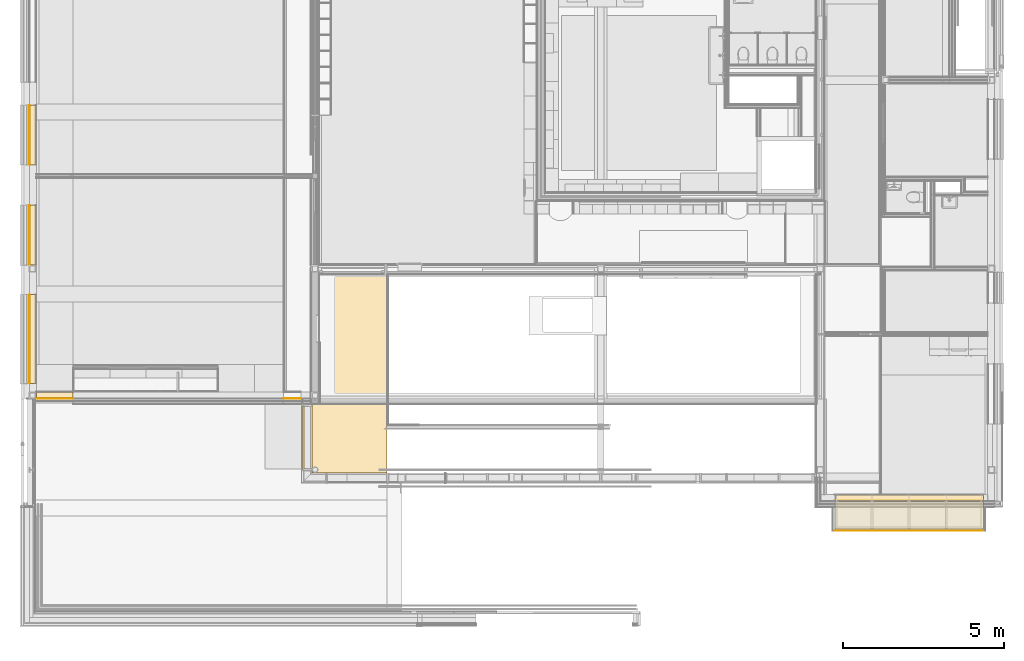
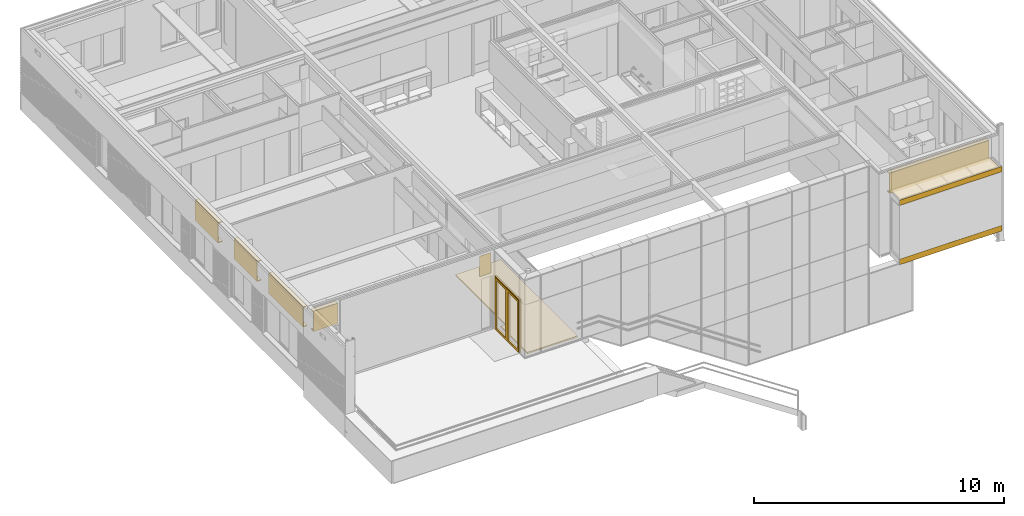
# One storey, part 102 of 137: 20 coverings, 1 opening, 11 elements without a shape of their own.
"""IFC2X3 building model written with IfcOpenShell, lengths in millimetres."""

from ifc_helpers import new_model, entity, si_unit, converted_unit, derived_unit, money_unit, direction, frame, origin_with_axes, place, context, subcontext, project, spatial, faceted_brep, material, type_object, element, aggregate, save


model = new_model("IFC2X3")

# Units and contexts
model_context = context("Model", 3, precision=0.01, world=origin_with_axes(), true_north=direction((0.0, 1.0)))
body_context = subcontext(model_context, "Body", "Model", "MODEL_VIEW")
ifc_project = project(units=[si_unit("LENGTHUNIT", "METRE", prefix="MILLI"), si_unit("AREAUNIT", "SQUARE_METRE"), si_unit("VOLUMEUNIT", "CUBIC_METRE"), converted_unit("PLANEANGLEUNIT", "DEGREE", entity("IfcPlaneAngleMeasure", 0.0174532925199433), si_unit("PLANEANGLEUNIT", "RADIAN"), dimensions=[0, 0, 0, 0, 0, 0, 0]), money_unit("EUR"), converted_unit("TIMEUNIT", "Year", entity("IfcTimeMeasure", 31556926.0), si_unit("TIMEUNIT", "SECOND"), dimensions=[0, 0, 1, 0, 0, 0, 0]), si_unit("MASSUNIT", "GRAM", prefix="KILO"), si_unit("THERMODYNAMICTEMPERATUREUNIT", "DEGREE_CELSIUS"), si_unit("LUMINOUSINTENSITYUNIT", "LUMEN"), si_unit("ENERGYUNIT", "JOULE", prefix="MEGA"), derived_unit("THERMALCONDUCTANCEUNIT", [(si_unit("POWERUNIT", "WATT"), 1), (si_unit("LENGTHUNIT", "METRE"), -1), (si_unit("THERMODYNAMICTEMPERATUREUNIT", "KELVIN"), -1)]), derived_unit("SPECIFICHEATCAPACITYUNIT", [(si_unit("ENERGYUNIT", "JOULE"), 1), (si_unit("MASSUNIT", "GRAM", prefix="KILO"), -1), (si_unit("THERMODYNAMICTEMPERATUREUNIT", "KELVIN"), -1)]), derived_unit("MASSDENSITYUNIT", [(si_unit("MASSUNIT", "GRAM", prefix="KILO"), 1), (si_unit("VOLUMEUNIT", "CUBIC_METRE"), -1)])], contexts=[model_context])

# Site, building, storey
site_placement = place(None, origin_with_axes())
site = spatial("IfcSite", under=ifc_project, at=site_placement, Name="Site", CompositionType="ELEMENT")
building_placement = place(site_placement, origin_with_axes())
building = spatial("IfcBuilding", under=site, at=building_placement, Name="Naam gebouw", CompositionType="ELEMENT")
storey_placement = place(building_placement, frame((0.0, 0.0, 3960.0), z_axis=(0.0, 0.0, 1.0), x_axis=(1.0, 0.0, 0.0)))
storey = spatial("IfcBuildingStorey", under=building, at=storey_placement, Name="1e verdieping", CompositionType="ELEMENT", Elevation=3960.0)

# Wall, opening, covering
wall_type = type_object("IfcWallType", Name="21 Zetwerk op Isolatie 63", PredefinedType="NOTDEFINED")
wall_placement = place(storey_placement, frame((24949.99904072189, 2749.999999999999, -283.0000000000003), z_axis=(0.0, 0.0, 1.0), x_axis=(1.0, 0.0, 0.0)))
wall = element("IfcWall", 1, at=wall_placement, inside=storey, type_object=wall_type, Name="21_Wand-x")
opening_placement = place(wall_placement, frame((2300.000941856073, 0.0, 273.0000000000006), z_axis=(0.0, 0.0, 1.0), x_axis=(1.0, 0.0, 0.0)))
element("IfcOpeningElement", 2, at=opening_placement, cuts=wall, Name="_Merk BK2", context=body_context, shape_type="Brep", body=[
    faceted_brep([(2299.000876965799, 0.9999999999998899, 0.0), (-2363.000941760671, 0.9999999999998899, 0.0), (-2363.000941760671, 0.9999999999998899, 2620.0), (2299.000876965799, 0.9999999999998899, 2620.0), (2363.000941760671, -64.00000000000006, 0.0), (-2363.000941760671, -64.00000000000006, 0.0), (2363.000941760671, -63.00000000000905, 0.0), (-2363.000941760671, -64.00000000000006, 2620.0), (2363.000941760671, -64.00000000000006, 2620.0), (2363.000941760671, -63.00000000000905, 2620.0)], [[[0, 1, 2, 3]], [[4, 5, 1, 0, 6]], [[5, 7, 2, 1]], [[7, 8, 9, 3, 2]], [[0, 3, 9, 6]], [[5, 4, 8, 7]], [[8, 4, 6, 9]]]),
])
ifc_material_1 = material(Name="Metaal - Aluminium")
covering_1_placement = place(wall_placement, origin_with_axes())
covering_1 = element("IfcCovering", 3, at=covering_1_placement, material=ifc_material_1, Name="Metaal - Aluminium", PredefinedType="NOTDEFINED", context=body_context, shape_type="Brep", body=[
    faceted_brep([(4663.001880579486, -59.99999999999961, 273.0000000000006), (-59.99999990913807, -60.00000000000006, 273.0000000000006), (-59.9999999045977, -63.00000000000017, 273.0000000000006), (4663.001883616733, -62.99999999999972, 273.0000000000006), (4663.001880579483, -59.99999999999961, 0.0), (-59.99999990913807, -60.00000000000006, 0.0), (-59.9999999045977, -63.00000000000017, 0.0), (4663.00188361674, -62.99999999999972, 0.0)], [[[0, 1, 2, 3]], [[1, 0, 4, 5]], [[2, 1, 5, 6]], [[3, 2, 6, 7]], [[0, 3, 7, 4]], [[4, 7, 6, 5]]]),
    faceted_brep([(-59.9999999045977, -62.99999999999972, 2893.000000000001), (4663.001883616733, -62.99999999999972, 2893.000000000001), (4663.00188361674, -62.99999999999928, 3153.000000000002), (-59.9999999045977, -62.99999999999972, 3153.000000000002), (-59.99999990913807, -59.99999999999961, 2893.000000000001), (4663.001880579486, -59.99999999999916, 2893.000000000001), (4663.001880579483, -59.99999999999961, 3153.000000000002), (-59.99999990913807, -59.99999999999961, 3153.000000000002)], [[[0, 1, 2, 3]], [[1, 0, 4, 5]], [[1, 5, 6, 2]], [[2, 6, 7, 3]], [[4, 0, 3, 7]], [[4, 7, 6, 5]]]),
])
aggregate(wall, [covering_1])

# Slab, covering
slab_type_1 = type_object("IfcSlabType", Name="27 HSB dak 192", PredefinedType="NOTDEFINED")
slab_1_placement = place(storey_placement, frame((24949.99903911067, 3599.999997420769, 2600.0), z_axis=(0.0, 0.0, 1.0), x_axis=(1.0, 0.0, 0.0)))
slab_1 = element("IfcSlab", 4, at=slab_1_placement, inside=storey, type_object=slab_type_1, Name="_Vloer-x", PredefinedType="NOTDEFINED")
ifc_material_2 = material(Name="Hout - Multiplex")
covering_2_placement = place(slab_1_placement, origin_with_axes())
covering_2 = element("IfcCovering", 5, at=covering_2_placement, material=ifc_material_2, Name="Hout - Multiplex", PredefinedType="NOTDEFINED", context=body_context, shape_type="Brep", body=[
    faceted_brep([(0.0, 0.0, 174.0000000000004), (0.0, -849.9999974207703, 174.0000000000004), (0.0, -849.9999974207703, 192.0000000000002), (0.0, 0.0, 192.0000000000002), (4600.000744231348, 0.0, 174.0000000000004), (4600.000744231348, -849.9999974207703, 174.0000000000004), (4600.000744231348, -849.9999974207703, 192.0000000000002), (4600.000744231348, 0.0, 192.0000000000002)], [[[0, 1, 2, 3]], [[1, 0, 4, 5]], [[1, 5, 6, 2]], [[7, 3, 2, 6]], [[4, 0, 3, 7]], [[5, 4, 7, 6]]]),
])
aggregate(slab_1, [covering_2])

slab_type_2 = type_object("IfcSlabType", Name="43 Zwevende dekvloer 100", PredefinedType="NOTDEFINED")
slab_2_placement = place(storey_placement, frame((8750.013310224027, 6604.999839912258, 0.0), z_axis=(0.0, 0.0, 1.0), x_axis=(1.0, 0.0, 0.0)))
slab_2 = element("IfcSlab", 6, at=slab_2_placement, inside=storey, type_object=slab_type_2, Name="_Vloer-x", PredefinedType="NOTDEFINED")
ifc_material_3 = material(Name="Cement - dekvloer")
covering_3_placement = place(slab_2_placement, origin_with_axes())
covering_3 = element("IfcCovering", 7, at=covering_3_placement, material=ifc_material_3, Name="Cement - dekvloer", PredefinedType="FLOORING", context=body_context, shape_type="Brep", body=[
    faceted_brep([(3.136689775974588, 2.13690221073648e-06, -69.99999999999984), (3.136689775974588, 2.13690221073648e-06, 0.0), (234.9876335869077, 0.00016008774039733, 0.0), (234.9876335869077, 0.00016008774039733, -69.99999999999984), (3.136689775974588, -2124.999839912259, 0.0), (3.136689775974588, -2124.999839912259, -69.99999999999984), (2325.032282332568, -2124.999839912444, 0.0), (2325.032282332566, 4015.000270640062, 0.0), (234.9890812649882, 4015.000270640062, 0.0), (234.9890812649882, 4015.000270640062, -69.99999999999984), (2325.032282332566, 4015.000270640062, -69.99999999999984), (2325.032282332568, -2124.999839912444, -69.99999999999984)], [[[0, 1, 2, 3]], [[4, 1, 0, 5]], [[1, 4, 6, 7, 8, 2]], [[9, 3, 2, 8]], [[5, 0, 3, 9, 10, 11]], [[4, 5, 11, 6]], [[11, 10, 7, 6]], [[10, 9, 8, 7]]]),
])
aggregate(slab_2, [covering_3])

# Beam, coverings
beam_type = type_object("IfcBeamType", Name="31 HSB boven kozijnen 214 x 1000", PredefinedType="BEAM")
beam_1_placement = place(storey_placement, frame((24949.99903911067, 3813.999999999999, 2600.000000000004), z_axis=(0.0, 0.0, 1.0), x_axis=(1.540638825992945e-08, -0.9999999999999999, 0.0)))
beam_1 = element("IfcBeam", 8, at=beam_1_placement, inside=storey, type_object=beam_type, Name="28_Balk-x", ObjectType="BEAM")
ifc_material_4 = material(Name="Hout - Vloer")
covering_4_placement = place(beam_1_placement, origin_with_axes())
covering_4 = element("IfcCovering", 9, at=covering_4_placement, material=ifc_material_4, Name="Hout - Vloer", PredefinedType="NOTDEFINED", context=body_context, shape_type="Brep", body=[
    faceted_brep([(11.99999638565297, 4600.000744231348, 49.99999999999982), (11.99999638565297, 4600.000744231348, 12.00000596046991), (11.99999638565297, 0.0, 12.00000596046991), (11.99999638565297, 0.0, 49.99999999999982), (196.0000083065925, 4600.000744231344, 49.99999999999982), (196.0000083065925, 4600.000744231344, 12.00000596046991), (196.0000083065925, 0.0, 12.00000596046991), (196.0000083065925, 0.0, 49.99999999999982)], [[[0, 1, 2, 3]], [[0, 4, 5, 1]], [[1, 5, 6, 2]], [[3, 2, 6, 7]], [[4, 0, 3, 7]], [[5, 4, 7, 6]]]),
])
covering_5_placement = place(beam_1_placement, origin_with_axes())
covering_5 = element("IfcCovering", 10, at=covering_5_placement, material=ifc_material_2, Name="Hout - Multiplex", PredefinedType="NOTDEFINED", context=body_context, shape_type="Brep", body=[
    faceted_brep([(196.0000019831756, 4600.000744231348, 999.9999999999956), (196.0000019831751, 4600.000744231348, 11.99999999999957), (196.0000019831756, 0.0, 11.99999999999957), (196.000001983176, 0.0, 999.9999999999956), (214.0000025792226, 4600.000744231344, 999.9999999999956), (214.0000025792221, 4600.000744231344, 11.99999999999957), (214.0000025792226, 0.0, 11.99999999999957), (214.0000025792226, 0.0, 999.9999999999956)], [[[0, 1, 2, 3]], [[0, 4, 5, 1]], [[1, 5, 6, 2]], [[3, 2, 6, 7]], [[4, 0, 3, 7]], [[5, 4, 7, 6]]]),
])
covering_6_placement = place(beam_1_placement, origin_with_axes())
covering_6 = element("IfcCovering", 11, at=covering_6_placement, material=ifc_material_4, Name="Hout - Vloer", PredefinedType="NOTDEFINED", context=body_context, shape_type="Brep", body=[
    faceted_brep([(11.99999006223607, 4600.000744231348, 999.9999999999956), (11.99999006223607, 4600.000744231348, 962.0000059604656), (11.99999006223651, 0.0, 962.0000059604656), (11.99999006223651, 0.0, 999.9999999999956), (196.0000019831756, 4600.000744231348, 999.9999999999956), (196.0000019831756, 4600.000744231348, 961.9999910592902), (196.0000019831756, 0.0, 961.9999910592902), (196.000001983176, 0.0, 999.9999999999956)], [[[0, 1, 2, 3]], [[0, 4, 5, 1]], [[1, 5, 6, 2]], [[3, 2, 6, 7]], [[4, 0, 3, 7]], [[5, 4, 7, 6]]]),
])
aggregate(beam_1, [covering_4, covering_5, covering_6])

# Beam, covering
beam_2_placement = place(storey_placement, frame((8410.0, 6993.999661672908, 2600.000000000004), z_axis=(0.0, 0.0, 1.0), x_axis=(4.022914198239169e-08, 0.9999999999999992, 0.0)))
beam_2 = element("IfcBeam", 12, at=beam_2_placement, inside=storey, type_object=beam_type, Name="28_Balk-x", ObjectType="BEAM")
covering_7_placement = place(beam_2_placement, origin_with_axes())
covering_7 = element("IfcCovering", 13, at=covering_7_placement, material=ifc_material_2, Name="Hout - Multiplex", PredefinedType="NOTDEFINED", context=body_context, shape_type="Brep", body=[
    faceted_brep([(-214.0000025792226, 532.4999958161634, 999.9999999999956), (-214.0000025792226, 532.4999958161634, 11.99999999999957), (-214.0000025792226, 0.0, 11.99999999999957), (-214.0000025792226, 0.0, 999.9999999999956), (-196.000001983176, 532.4999958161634, 999.9999999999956), (-196.0000019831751, 532.4999958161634, 11.99999999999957), (-196.0000019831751, 0.0, 11.99999999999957), (-196.0000019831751, 0.0, 999.9999999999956)], [[[0, 1, 2, 3]], [[0, 4, 5, 1]], [[1, 5, 6, 2]], [[3, 2, 6, 7]], [[4, 0, 3, 7]], [[5, 4, 7, 6]]]),
])
aggregate(beam_2, [covering_7])

beam_3_placement = place(storey_placement, frame((214.0000000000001, 7254.999999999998, 2600.000000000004), z_axis=(0.0, 0.0, 1.0), x_axis=(1.0, 0.0, 0.0)))
beam_3 = element("IfcBeam", 14, at=beam_3_placement, inside=storey, type_object=beam_type, Name="28_Balk-x", ObjectType="BEAM")
covering_8_placement = place(beam_3_placement, origin_with_axes())
covering_8 = element("IfcCovering", 15, at=covering_8_placement, material=ifc_material_4, Name="Hout - Vloer", PredefinedType="NOTDEFINED", context=body_context, shape_type="Brep", body=[
    faceted_brep([(-196.0000019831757, 2750.000000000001, 999.9999999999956), (-196.0000019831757, 2750.000000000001, 961.9999910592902), (-196.0000019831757, 0.0, 961.9999910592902), (-196.0000019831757, 0.0, 999.9999999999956), (-11.99999006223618, 2750.000000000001, 999.9999999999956), (-11.99999006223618, 2750.000000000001, 962.0000059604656), (-11.99999006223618, 0.0, 962.0000059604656), (-11.99999006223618, 0.0, 999.9999999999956)], [[[0, 1, 2, 3]], [[0, 4, 5, 1]], [[1, 5, 6, 2]], [[3, 2, 6, 7]], [[4, 0, 3, 7]], [[5, 4, 7, 6]]]),
])

beam_4_placement = place(storey_placement, frame((214.0000000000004, 10925.00011055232, 2600.000000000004), z_axis=(0.0, 0.0, 1.0), x_axis=(1.0, 0.0, 0.0)))
beam_4 = element("IfcBeam", 16, at=beam_4_placement, inside=storey, type_object=beam_type, Name="28_Balk-x", ObjectType="BEAM")
covering_9_placement = place(beam_4_placement, origin_with_axes())
covering_9 = element("IfcCovering", 17, at=covering_9_placement, material=ifc_material_4, Name="Hout - Vloer", PredefinedType="NOTDEFINED", context=body_context, shape_type="Brep", body=[
    faceted_brep([(-196.0000019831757, 1850.0, 999.9999999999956), (-196.0000019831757, 1850.0, 961.9999910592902), (-196.0000019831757, 0.0, 961.9999910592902), (-196.0000019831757, 0.0, 999.9999999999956), (-11.99999006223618, 1850.0, 999.9999999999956), (-11.99999006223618, 1850.0, 962.0000059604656), (-11.99999006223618, 0.0, 962.0000059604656), (-11.99999006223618, 0.0, 999.9999999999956)], [[[0, 1, 2, 3]], [[0, 4, 5, 1]], [[1, 5, 6, 2]], [[3, 2, 6, 7]], [[4, 0, 3, 7]], [[5, 4, 7, 6]]]),
])

# Covering
covering_10_placement = place(beam_3_placement, origin_with_axes())
covering_10 = element("IfcCovering", 18, at=covering_10_placement, material=ifc_material_2, Name="Hout - Multiplex", PredefinedType="NOTDEFINED", context=body_context, shape_type="Brep", body=[
    faceted_brep([(-214.0000025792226, 2750.000000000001, 999.9999999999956), (-214.0000025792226, 2750.000000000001, 11.99999999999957), (-214.0000025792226, 0.0, 11.99999999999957), (-214.0000025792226, 0.0, 999.9999999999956), (-196.0000019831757, 2750.000000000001, 999.9999999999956), (-196.0000019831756, 2750.000000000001, 11.99999999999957), (-196.0000019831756, 0.0, 11.99999999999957), (-196.0000019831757, 0.0, 999.9999999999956)], [[[0, 1, 2, 3]], [[0, 4, 5, 1]], [[1, 5, 6, 2]], [[3, 2, 6, 7]], [[4, 0, 3, 7]], [[5, 4, 7, 6]]]),
])

covering_11_placement = place(beam_4_placement, origin_with_axes())
covering_11 = element("IfcCovering", 19, at=covering_11_placement, material=ifc_material_4, Name="Hout - Vloer", PredefinedType="NOTDEFINED", context=body_context, shape_type="Brep", body=[
    faceted_brep([(-196.0000083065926, 1850.0, 49.99999999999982), (-196.0000083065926, 1850.0, 12.00000596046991), (-196.0000083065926, 0.0, 12.00000596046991), (-196.0000083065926, 0.0, 49.99999999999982), (-11.99999638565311, 1850.0, 49.99999999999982), (-11.99999638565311, 1850.0, 12.00000596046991), (-11.99999638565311, 0.0, 12.00000596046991), (-11.99999638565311, 0.0, 49.99999999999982)], [[[0, 1, 2, 3]], [[0, 4, 5, 1]], [[1, 5, 6, 2]], [[3, 2, 6, 7]], [[4, 0, 3, 7]], [[5, 4, 7, 6]]]),
])

covering_12_placement = place(beam_4_placement, origin_with_axes())
covering_12 = element("IfcCovering", 20, at=covering_12_placement, material=ifc_material_2, Name="Hout - Multiplex", PredefinedType="NOTDEFINED", context=body_context, shape_type="Brep", body=[
    faceted_brep([(-214.0000025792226, 1850.0, 999.9999999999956), (-214.0000025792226, 1850.0, 11.99999999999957), (-214.0000025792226, 0.0, 11.99999999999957), (-214.0000025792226, 0.0, 999.9999999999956), (-196.0000019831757, 1850.0, 999.9999999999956), (-196.0000019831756, 1850.0, 11.99999999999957), (-196.0000019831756, 0.0, 11.99999999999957), (-196.0000019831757, 0.0, 999.9999999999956)], [[[0, 1, 2, 3]], [[0, 4, 5, 1]], [[1, 5, 6, 2]], [[3, 2, 6, 7]], [[4, 0, 3, 7]], [[5, 4, 7, 6]]]),
])

aggregate(beam_4, [covering_9, covering_11, covering_12])

# Beam, coverings
beam_5_placement = place(storey_placement, frame((214.0000000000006, 14024.9998112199, 2600.000000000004), z_axis=(0.0, 0.0, 1.0), x_axis=(1.0, 0.0, 0.0)))
beam_5 = element("IfcBeam", 21, at=beam_5_placement, inside=storey, type_object=beam_type, Name="28_Balk-x", ObjectType="BEAM")
covering_13_placement = place(beam_5_placement, origin_with_axes())
covering_13 = element("IfcCovering", 22, at=covering_13_placement, material=ifc_material_4, Name="Hout - Vloer", PredefinedType="NOTDEFINED", context=body_context, shape_type="Brep", body=[
    faceted_brep([(-196.0000019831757, 1850.000000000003, 999.9999999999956), (-196.0000019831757, 1850.000000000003, 961.9999910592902), (-196.0000019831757, 0.0, 961.9999910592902), (-196.0000019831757, 0.0, 999.9999999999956), (-11.99999006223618, 1850.000000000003, 999.9999999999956), (-11.99999006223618, 1850.000000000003, 962.0000059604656), (-11.99999006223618, 0.0, 962.0000059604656), (-11.99999006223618, 0.0, 999.9999999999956)], [[[0, 1, 2, 3]], [[0, 4, 5, 1]], [[1, 5, 6, 2]], [[3, 2, 6, 7]], [[4, 0, 3, 7]], [[5, 4, 7, 6]]]),
])
covering_14_placement = place(beam_5_placement, origin_with_axes())
covering_14 = element("IfcCovering", 23, at=covering_14_placement, material=ifc_material_4, Name="Hout - Vloer", PredefinedType="NOTDEFINED", context=body_context, shape_type="Brep", body=[
    faceted_brep([(-196.0000083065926, 1850.000000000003, 49.99999999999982), (-196.0000083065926, 1850.000000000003, 12.00000596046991), (-196.0000083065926, 0.0, 12.00000596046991), (-196.0000083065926, 0.0, 49.99999999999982), (-11.99999638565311, 1850.000000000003, 49.99999999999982), (-11.99999638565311, 1850.000000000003, 12.00000596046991), (-11.99999638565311, 0.0, 12.00000596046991), (-11.99999638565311, 0.0, 49.99999999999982)], [[[0, 1, 2, 3]], [[0, 4, 5, 1]], [[1, 5, 6, 2]], [[3, 2, 6, 7]], [[4, 0, 3, 7]], [[5, 4, 7, 6]]]),
])

# Covering
covering_15_placement = place(beam_3_placement, origin_with_axes())
covering_15 = element("IfcCovering", 24, at=covering_15_placement, material=ifc_material_4, Name="Hout - Vloer", PredefinedType="NOTDEFINED", context=body_context, shape_type="Brep", body=[
    faceted_brep([(-196.0000083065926, 2750.000000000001, 49.99999999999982), (-196.0000083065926, 2750.000000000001, 12.00000596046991), (-196.0000083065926, 0.0, 12.00000596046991), (-196.0000083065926, 0.0, 49.99999999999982), (-11.99999638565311, 2750.000000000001, 49.99999999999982), (-11.99999638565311, 2750.000000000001, 12.00000596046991), (-11.99999638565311, 0.0, 12.00000596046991), (-11.99999638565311, 0.0, 49.99999999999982)], [[[0, 1, 2, 3]], [[0, 4, 5, 1]], [[1, 5, 6, 2]], [[3, 2, 6, 7]], [[4, 0, 3, 7]], [[5, 4, 7, 6]]]),
])

aggregate(beam_3, [covering_8, covering_10, covering_15])

covering_16_placement = place(beam_5_placement, origin_with_axes())
covering_16 = element("IfcCovering", 25, at=covering_16_placement, material=ifc_material_2, Name="Hout - Multiplex", PredefinedType="NOTDEFINED", context=body_context, shape_type="Brep", body=[
    faceted_brep([(-214.0000025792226, 1850.000000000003, 999.9999999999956), (-214.0000025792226, 1850.000000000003, 11.99999999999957), (-214.0000025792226, 0.0, 11.99999999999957), (-214.0000025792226, 0.0, 999.9999999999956), (-196.0000019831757, 1850.000000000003, 999.9999999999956), (-196.0000019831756, 1850.000000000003, 11.99999999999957), (-196.0000019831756, 0.0, 11.99999999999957), (-196.0000019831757, 0.0, 999.9999999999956)], [[[0, 1, 2, 3]], [[0, 4, 5, 1]], [[1, 5, 6, 2]], [[3, 2, 6, 7]], [[4, 0, 3, 7]], [[5, 4, 7, 6]]]),
])

aggregate(beam_5, [covering_13, covering_14, covering_16])

# Curtain wall, plate, covering
curtain_wall_type = type_object("IfcCurtainWallType", Name="Curtain Wall Type", PredefinedType="NOTDEFINED")
curtain_wall_placement = place(storey_placement, frame((8473.014787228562, 4364.43626274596, -3949.999921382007), z_axis=(0.0, 0.0, 1.0), x_axis=(1.0, 0.0, 0.0)))
curtain_wall = element("IfcCurtainWall", 26, at=curtain_wall_placement, inside=storey, type_object=curtain_wall_type, Name="21_Vliesgevel-x")
plate_type = type_object("IfcPlateType", Name="1969 x 1500 x 42", PredefinedType="CURTAIN_PANEL")
plate_placement = place(curtain_wall_placement, frame((0.0, 1222.405868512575, 5183.333269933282), z_axis=(0.0, 0.0, 1.0), x_axis=(0.0, 1.0, 0.0)))
plate = element("IfcPlate", 27, at=plate_placement, type_object=plate_type, Name="_Paneel-x", ObjectType="CURTAIN_PANEL")
aggregate(curtain_wall, [plate])
ifc_material_5 = material(Name="Metaal - Staal AFW")
covering_17_placement = place(plate_placement, origin_with_axes())
covering_17 = element("IfcCovering", 28, at=covering_17_placement, material=ifc_material_5, Name="Metaal - Staal AFW", PredefinedType="NOTDEFINED", context=body_context, shape_type="Brep", body=[
    faceted_brep([(-982.1575122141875, -70.99999999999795, -1223.333168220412), (-982.1575122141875, -70.99999999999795, 1341.666684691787), (-982.1575122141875, -48.99999999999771, 1341.666684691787), (-982.1575122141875, -48.99999999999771, -1223.333168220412), (-914.1575122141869, -70.99999999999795, -1223.333168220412), (-914.1575122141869, -70.99999999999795, 1273.666684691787), (-914.1575122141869, -48.99999999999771, 1273.666684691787), (-914.1575122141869, -48.99999999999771, -1223.333168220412)], [[[0, 1, 2, 3]], [[0, 4, 5, 1]], [[1, 5, 6, 2]], [[3, 2, 6, 7]], [[4, 0, 3, 7]], [[5, 4, 7, 6]]]),
    faceted_brep([(957.1575089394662, -70.99999999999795, 1341.666684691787), (889.1575089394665, -70.99999999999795, 1273.666684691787), (889.1575089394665, -48.99999999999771, 1273.666684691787), (957.1575089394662, -48.99999999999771, 1341.666684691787), (-982.1575122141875, -70.99999999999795, 1341.666684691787), (-914.1575122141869, -70.99999999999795, 1273.666684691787), (-914.1575122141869, -48.99999999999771, 1273.666684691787), (-982.1575122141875, -48.99999999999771, 1341.666684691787)], [[[0, 1, 2, 3]], [[0, 4, 5, 1]], [[1, 5, 6, 2]], [[3, 2, 6, 7]], [[4, 0, 3, 7]], [[5, 4, 7, 6]]]),
    faceted_brep([(957.1575089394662, -70.99999999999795, -1223.333168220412), (889.1575089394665, -70.99999999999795, -1223.333168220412), (889.1575089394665, -48.99999999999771, -1223.333168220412), (957.1575089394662, -48.99999999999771, -1223.333168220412), (957.1575089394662, -70.99999999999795, 1341.666684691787), (889.1575089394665, -70.99999999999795, 1273.666684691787), (889.1575089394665, -48.99999999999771, 1273.666684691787), (957.1575089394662, -48.99999999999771, 1341.666684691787)], [[[0, 1, 2, 3]], [[0, 4, 5, 1]], [[1, 5, 6, 2]], [[3, 2, 6, 7]], [[4, 0, 3, 7]], [[5, 4, 7, 6]]]),
    faceted_brep([(-982.1575122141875, -48.99999999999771, -1223.333168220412), (-982.1575122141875, -48.99999999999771, 1341.666684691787), (-982.1575122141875, 1.000000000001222, 1341.666684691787), (-982.1575122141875, 1.000000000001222, -1223.333168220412), (-942.1575122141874, -48.99999999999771, -1223.333168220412), (-942.1575122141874, -48.99999999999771, 1301.666684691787), (-942.1575122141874, 1.000000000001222, 1301.666684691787), (-942.1575122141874, 1.000000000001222, -1223.333168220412)], [[[0, 1, 2, 3]], [[0, 4, 5, 1]], [[1, 5, 6, 2]], [[3, 2, 6, 7]], [[4, 0, 3, 7]], [[5, 4, 7, 6]]]),
    faceted_brep([(957.1575089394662, -48.99999999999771, 1341.666684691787), (917.1575089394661, -48.99999999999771, 1301.666684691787), (917.1575089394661, 1.000000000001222, 1301.666684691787), (957.1575089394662, 1.000000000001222, 1341.666684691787), (-982.1575122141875, -48.99999999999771, 1341.666684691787), (-942.1575122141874, -48.99999999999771, 1301.666684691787), (-942.1575122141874, 1.000000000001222, 1301.666684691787), (-982.1575122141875, 1.000000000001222, 1341.666684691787)], [[[0, 1, 2, 3]], [[0, 4, 5, 1]], [[1, 5, 6, 2]], [[3, 2, 6, 7]], [[4, 0, 3, 7]], [[5, 4, 7, 6]]]),
    faceted_brep([(957.1575089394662, -48.99999999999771, -1223.333168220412), (917.1575089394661, -48.99999999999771, -1223.333168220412), (917.1575089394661, 1.000000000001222, -1223.333168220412), (957.1575089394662, 1.000000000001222, -1223.333168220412), (957.1575089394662, -48.99999999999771, 1341.666684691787), (917.1575089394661, -48.99999999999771, 1301.666684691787), (917.1575089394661, 1.000000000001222, 1301.666684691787), (957.1575089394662, 1.000000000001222, 1341.666684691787)], [[[0, 1, 2, 3]], [[0, 4, 5, 1]], [[1, 5, 6, 2]], [[3, 2, 6, 7]], [[4, 0, 3, 7]], [[5, 4, 7, 6]]]),
    faceted_brep([(-997.1575111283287, -20.99999999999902, -1223.333168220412), (-997.1575111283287, -20.99999999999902, 1356.666683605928), (-997.1575111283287, 21.0000000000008, 1356.666683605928), (-997.1575111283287, 21.0000000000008, -1223.333168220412), (-982.1575122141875, -20.99999999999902, -1223.333168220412), (-982.1575122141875, -20.99999999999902, 1341.666684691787), (-982.1575122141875, 21.0000000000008, 1341.666684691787), (-982.1575122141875, 21.0000000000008, -1223.333168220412)], [[[0, 1, 2, 3]], [[0, 4, 5, 1]], [[1, 5, 6, 2]], [[3, 2, 6, 7]], [[4, 0, 3, 7]], [[5, 4, 7, 6]]]),
    faceted_brep([(-997.1575111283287, -20.99999999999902, 1356.666683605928), (972.1575078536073, -20.99999999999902, 1356.666683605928), (972.1575078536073, 21.00000000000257, 1356.666683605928), (-997.1575111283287, 21.0000000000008, 1356.666683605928), (-982.1575122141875, -20.99999999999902, 1341.666684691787), (957.1575089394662, -20.99999999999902, 1341.666684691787), (957.1575089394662, 21.00000000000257, 1341.666684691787), (-982.1575122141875, 21.0000000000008, 1341.666684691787)], [[[0, 1, 2, 3]], [[0, 4, 5, 1]], [[1, 5, 6, 2]], [[3, 2, 6, 7]], [[4, 0, 3, 7]], [[5, 4, 7, 6]]]),
    faceted_brep([(972.1575078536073, -20.99999999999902, 1356.666683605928), (972.1575078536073, -20.99999999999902, -1223.333168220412), (972.1575078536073, 21.00000000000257, -1223.333168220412), (972.1575078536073, 21.00000000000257, 1356.666683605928), (957.1575089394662, -20.99999999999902, 1341.666684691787), (957.1575089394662, -20.99999999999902, -1223.333168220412), (957.1575089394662, 21.00000000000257, -1223.333168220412), (957.1575089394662, 21.00000000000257, 1341.666684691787)], [[[0, 1, 2, 3]], [[0, 4, 5, 1]], [[1, 5, 6, 2]], [[3, 2, 6, 7]], [[4, 0, 3, 7]], [[5, 4, 7, 6]]]),
    faceted_brep([(817.1575089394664, -48.99999999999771, -1123.333168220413), (817.1575089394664, -48.99999999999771, 1201.666684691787), (817.1575089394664, 31.00000000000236, 1201.666684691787), (817.1575089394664, 31.00000000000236, -1123.333168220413), (917.1575089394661, -48.99999999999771, -1223.333168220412), (917.1575089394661, -48.99999999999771, 1301.666684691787), (917.1575089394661, 31.00000000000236, 1301.666684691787), (917.1575089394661, 31.00000000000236, -1223.333168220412)], [[[0, 1, 2, 3]], [[0, 4, 5, 1]], [[1, 5, 6, 2]], [[3, 2, 6, 7]], [[4, 0, 3, 7]], [[5, 4, 7, 6]]]),
    faceted_brep([(-12.50000163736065, -48.99999999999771, -1223.333168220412), (-12.50000163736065, -48.99999999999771, 1301.666684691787), (-12.50000163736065, 31.00000000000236, 1301.666684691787), (-12.50000163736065, 31.00000000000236, -1223.333168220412), (87.49999836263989, -48.99999999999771, -1123.333168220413), (87.49999836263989, -48.99999999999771, 1201.666684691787), (87.49999836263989, 31.00000000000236, 1201.666684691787), (87.49999836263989, 31.00000000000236, -1123.333168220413)], [[[0, 1, 2, 3]], [[0, 4, 5, 1]], [[1, 5, 6, 2]], [[3, 2, 6, 7]], [[4, 0, 3, 7]], [[5, 4, 7, 6]]]),
    faceted_brep([(-12.50000163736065, -48.99999999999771, -1223.333168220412), (87.49999836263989, -48.99999999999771, -1123.333168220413), (87.49999836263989, 31.00000000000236, -1123.333168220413), (-12.50000163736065, 31.00000000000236, -1223.333168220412), (917.1575089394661, -48.99999999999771, -1223.333168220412), (817.1575089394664, -48.99999999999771, -1123.333168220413), (817.1575089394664, 31.00000000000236, -1123.333168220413), (917.1575089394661, 31.00000000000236, -1223.333168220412)], [[[0, 1, 2, 3]], [[0, 4, 5, 1]], [[1, 5, 6, 2]], [[3, 2, 6, 7]], [[4, 0, 3, 7]], [[5, 4, 7, 6]]]),
    faceted_brep([(917.1575089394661, -48.99999999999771, 1301.666684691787), (817.1575089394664, -48.99999999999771, 1201.666684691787), (817.1575089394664, 31.00000000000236, 1201.666684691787), (917.1575089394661, 31.00000000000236, 1301.666684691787), (-12.50000163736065, -48.99999999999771, 1301.666684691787), (87.49999836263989, -48.99999999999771, 1201.666684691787), (87.49999836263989, 31.00000000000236, 1201.666684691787), (-12.50000163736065, 31.00000000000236, 1301.666684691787)], [[[0, 1, 2, 3]], [[0, 4, 5, 1]], [[1, 5, 6, 2]], [[3, 2, 6, 7]], [[4, 0, 3, 7]], [[5, 4, 7, 6]]]),
    faceted_brep([(-112.5000016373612, -48.99999999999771, -1123.333168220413), (-112.5000016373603, -48.99999999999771, 1201.666684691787), (-112.5000016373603, 31.00000000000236, 1201.666684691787), (-112.5000016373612, 31.00000000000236, -1123.333168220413), (-12.50000163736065, -48.99999999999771, -1223.333168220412), (-12.50000163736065, -48.99999999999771, 1301.666684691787), (-12.50000163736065, 31.00000000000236, 1301.666684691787), (-12.50000163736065, 31.00000000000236, -1223.333168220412)], [[[0, 1, 2, 3]], [[0, 4, 5, 1]], [[1, 5, 6, 2]], [[3, 2, 6, 7]], [[4, 0, 3, 7]], [[5, 4, 7, 6]]]),
    faceted_brep([(-942.1575122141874, -48.99999999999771, -1223.333168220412), (-942.1575122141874, -48.99999999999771, 1301.666684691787), (-942.1575122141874, 31.00000000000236, 1301.666684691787), (-942.1575122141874, 31.00000000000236, -1223.333168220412), (-842.1575122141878, -48.99999999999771, -1123.333168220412), (-842.1575122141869, -48.99999999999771, 1201.666684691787), (-842.1575122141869, 31.00000000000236, 1201.666684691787), (-842.1575122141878, 31.00000000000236, -1123.333168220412)], [[[0, 1, 2, 3]], [[0, 4, 5, 1]], [[1, 5, 6, 2]], [[3, 2, 6, 7]], [[4, 0, 3, 7]], [[5, 4, 7, 6]]]),
    faceted_brep([(-942.1575122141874, -48.99999999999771, -1223.333168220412), (-842.1575122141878, -48.99999999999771, -1123.333168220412), (-842.1575122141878, 31.00000000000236, -1123.333168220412), (-942.1575122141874, 31.00000000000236, -1223.333168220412), (-12.50000163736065, -48.99999999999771, -1223.333168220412), (-112.5000016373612, -48.99999999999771, -1123.333168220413), (-112.5000016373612, 31.00000000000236, -1123.333168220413), (-12.50000163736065, 31.00000000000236, -1223.333168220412)], [[[0, 1, 2, 3]], [[0, 4, 5, 1]], [[1, 5, 6, 2]], [[3, 2, 6, 7]], [[4, 0, 3, 7]], [[5, 4, 7, 6]]]),
    faceted_brep([(-12.50000163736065, -48.99999999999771, 1301.666684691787), (-112.5000016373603, -48.99999999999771, 1201.666684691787), (-112.5000016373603, 31.00000000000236, 1201.666684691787), (-12.50000163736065, 31.00000000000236, 1301.666684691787), (-942.1575122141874, -48.99999999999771, 1301.666684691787), (-842.1575122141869, -48.99999999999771, 1201.666684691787), (-842.1575122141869, 31.00000000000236, 1201.666684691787), (-942.1575122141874, 31.00000000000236, 1301.666684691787)], [[[0, 1, 2, 3]], [[0, 4, 5, 1]], [[1, 5, 6, 2]], [[3, 2, 6, 7]], [[4, 0, 3, 7]], [[5, 4, 7, 6]]]),
])
aggregate(plate, [covering_17])

# Beam, coverings
beam_6_placement = place(storey_placement, frame((1353.999999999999, 6993.999661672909, 2600.000000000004), z_axis=(0.0, 0.0, 1.0), x_axis=(0.0, 1.0, 0.0)))
beam_6 = element("IfcBeam", 29, at=beam_6_placement, inside=storey, type_object=beam_type, Name="28_Balk-x", ObjectType="BEAM")
covering_18_placement = place(beam_6_placement, origin_with_axes())
covering_18 = element("IfcCovering", 30, at=covering_18_placement, material=ifc_material_4, Name="Hout - Vloer", PredefinedType="NOTDEFINED", context=body_context, shape_type="Brep", body=[
    faceted_brep([(-196.0000083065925, 1139.999999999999, 49.99999999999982), (-196.0000083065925, 1139.999999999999, 12.00000596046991), (-196.0000083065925, 0.0, 12.00000596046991), (-196.0000083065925, 0.0, 49.99999999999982), (-11.99999638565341, 1139.999999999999, 49.99999999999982), (-11.99999638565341, 1139.999999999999, 12.00000596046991), (-11.99999638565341, 0.0, 12.00000596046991), (-11.99999638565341, 0.0, 49.99999999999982)], [[[0, 1, 2, 3]], [[0, 4, 5, 1]], [[1, 5, 6, 2]], [[3, 2, 6, 7]], [[4, 0, 3, 7]], [[5, 4, 7, 6]]]),
])
covering_19_placement = place(beam_6_placement, origin_with_axes())
covering_19 = element("IfcCovering", 31, at=covering_19_placement, material=ifc_material_2, Name="Hout - Multiplex", PredefinedType="NOTDEFINED", context=body_context, shape_type="Brep", body=[
    faceted_brep([(-214.0000025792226, 1139.999999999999, 999.9999999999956), (-214.0000025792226, 1139.999999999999, 11.99999999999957), (-214.0000025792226, 0.0, 11.99999999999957), (-214.0000025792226, 0.0, 999.9999999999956), (-196.000001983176, 1139.999999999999, 999.9999999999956), (-196.0000019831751, 1139.999999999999, 11.99999999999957), (-196.000001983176, 0.0, 11.99999999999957), (-196.000001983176, 0.0, 999.9999999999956)], [[[0, 1, 2, 3]], [[0, 4, 5, 1]], [[1, 5, 6, 2]], [[3, 2, 6, 7]], [[4, 0, 3, 7]], [[5, 4, 7, 6]]]),
])
covering_20_placement = place(beam_6_placement, origin_with_axes())
covering_20 = element("IfcCovering", 32, at=covering_20_placement, material=ifc_material_4, Name="Hout - Vloer", PredefinedType="NOTDEFINED", context=body_context, shape_type="Brep", body=[
    faceted_brep([(-196.000001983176, 1139.999999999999, 999.9999999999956), (-196.000001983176, 1139.999999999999, 961.9999910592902), (-196.000001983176, 0.0, 961.9999910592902), (-196.000001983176, 0.0, 999.9999999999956), (-11.99999006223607, 1139.999999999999, 999.9999999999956), (-11.99999006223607, 1139.999999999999, 962.0000059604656), (-11.99999006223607, 0.0, 962.0000059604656), (-11.99999006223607, 0.0, 999.9999999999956)], [[[0, 1, 2, 3]], [[0, 4, 5, 1]], [[1, 5, 6, 2]], [[3, 2, 6, 7]], [[4, 0, 3, 7]], [[5, 4, 7, 6]]]),
])
aggregate(beam_6, [covering_18, covering_19, covering_20])

save(model, "model.ifc")
